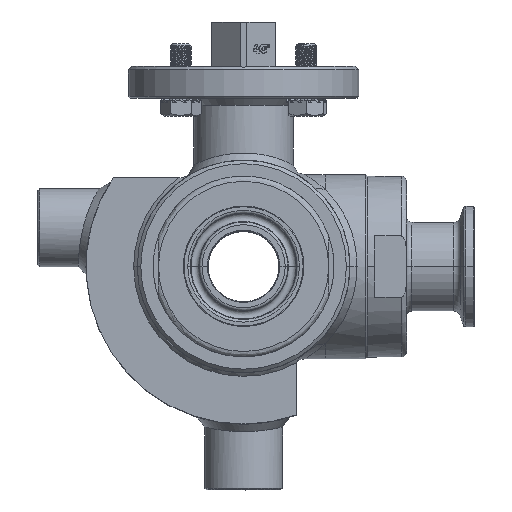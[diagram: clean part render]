
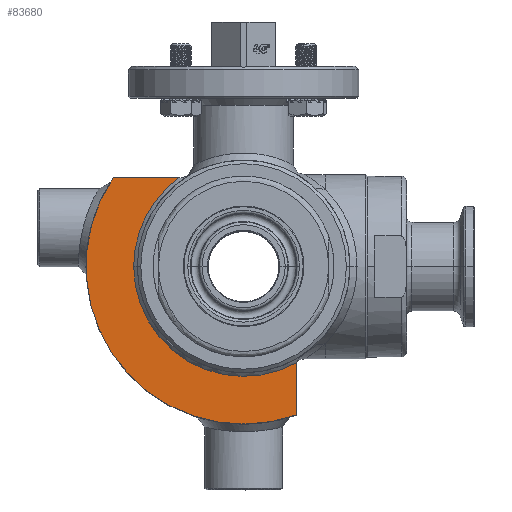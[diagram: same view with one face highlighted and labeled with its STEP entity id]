
A CAD part, top view. The second image highlights one B-rep face of the part: STEP entity #83680.
In plain terms, the highlighted planar face has unit normal (0, 0, 1).
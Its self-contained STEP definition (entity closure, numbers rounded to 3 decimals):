
#508=CARTESIAN_POINT('',(0.,0.,31.));
#509=DIRECTION('',(0.,0.,-1.));
#510=DIRECTION('',(-1.,0.,0.));
#511=AXIS2_PLACEMENT_3D('',#508,#509,#510);
#516=CARTESIAN_POINT('',(0.,0.,31.));
#517=DIRECTION('',(0.,0.,-1.));
#518=DIRECTION('',(0.484,-0.875,0.));
#519=AXIS2_PLACEMENT_3D('',#516,#517,#518);
#524=DIRECTION('',(0.,-1.,0.));
#525=VECTOR('',#524,14.713);
#526=CARTESIAN_POINT('',(15.,-27.129,31.));
#527=LINE('',#526,#525);
#531=CARTESIAN_POINT('',(0.,0.,31.));
#532=DIRECTION('',(0.,0.,-1.));
#533=DIRECTION('',(0.337,-0.941,0.));
#534=AXIS2_PLACEMENT_3D('',#531,#532,#533);
#539=DIRECTION('',(1.,0.,0.));
#540=VECTOR('',#539,18.423);
#541=CARTESIAN_POINT('',(-36.753,25.,31.));
#542=LINE('',#541,#540);
#79101=CARTESIAN_POINT('',(15.,-41.843,31.));
#79102=CARTESIAN_POINT('',(-36.753,25.,31.));
#79103=VERTEX_POINT('',#79101);
#79104=VERTEX_POINT('',#79102);
#79183=CARTESIAN_POINT('',(-31.,0.,31.));
#79184=CARTESIAN_POINT('',(-18.33,25.,31.));
#79185=VERTEX_POINT('',#79183);
#79186=VERTEX_POINT('',#79184);
#79187=CARTESIAN_POINT('',(15.,-27.129,31.));
#79188=VERTEX_POINT('',#79187);
#83665=CARTESIAN_POINT('',(0.,0.,31.));
#83666=DIRECTION('',(0.,0.,-1.));
#83667=DIRECTION('',(-1.,0.,0.));
#83668=AXIS2_PLACEMENT_3D('',#83665,#83666,#83667);
#83669=PLANE('',#83668);
#83670=ORIENTED_EDGE('',*,*,#83650,.F.);
#83671=ORIENTED_EDGE('',*,*,#83265,.F.);
#83673=ORIENTED_EDGE('',*,*,#83672,.T.);
#83675=ORIENTED_EDGE('',*,*,#83674,.T.);
#83677=ORIENTED_EDGE('',*,*,#83676,.T.);
#83678=EDGE_LOOP('',(#83670,#83671,#83673,#83675,#83677));
#83679=FACE_OUTER_BOUND('',#83678,.F.);
#83680=ADVANCED_FACE('',(#83679),#83669,.F.);
#512=CIRCLE('',#511,31.);
#520=CIRCLE('',#519,31.);
#535=CIRCLE('',#534,44.45);
#83265=EDGE_CURVE('',#79188,#79185,#520,.T.);
#83650=EDGE_CURVE('',#79185,#79186,#512,.T.);
#83672=EDGE_CURVE('',#79188,#79103,#527,.T.);
#83674=EDGE_CURVE('',#79103,#79104,#535,.T.);
#83676=EDGE_CURVE('',#79104,#79186,#542,.T.);
